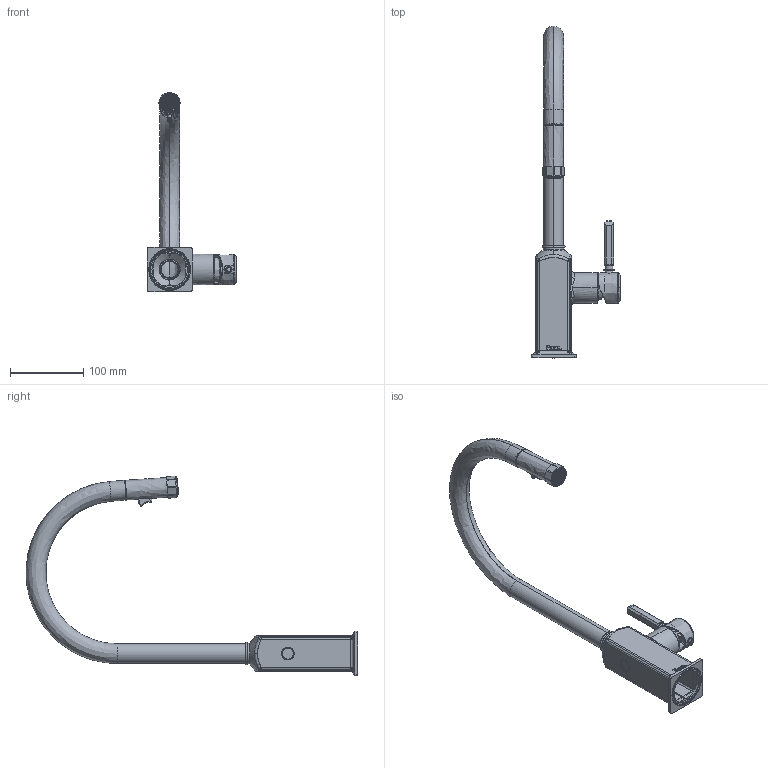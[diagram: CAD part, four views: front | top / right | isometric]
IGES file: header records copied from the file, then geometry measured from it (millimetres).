
Start section: SolidWorks IGES file using analytic representation for surfaces
Global section: file name: C:\Users\czhou\Desktop\0-Whole Project\6680\2409-REV_NF_ADHOC-02430\AP53D1LM\sku_AP53D1LM1_igs.IGS; native system: SolidWorks 2023; preprocessor: SolidWorks 2023; author: czhou; date: 240905.182030; units: inch
Bounding box: 122.23 x 453.42 x 273.15 mm (x, y, z)
Surface area: 129962.8 mm2 (no closed solid volume)
Topology: 0 solids, 0 shells, 598 faces, 8296 edges, 8294 vertices
Faces by surface type: bspline 375, revolution 223
